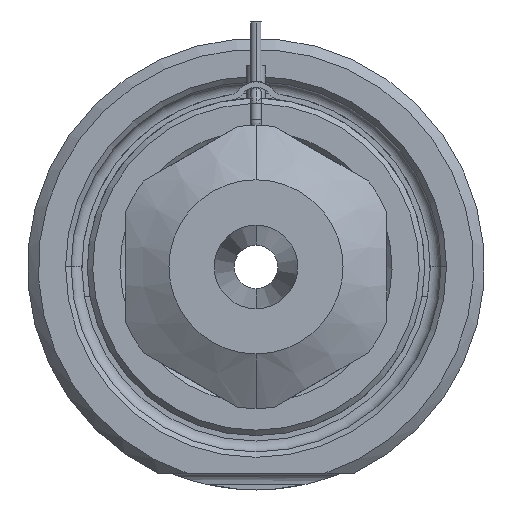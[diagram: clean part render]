
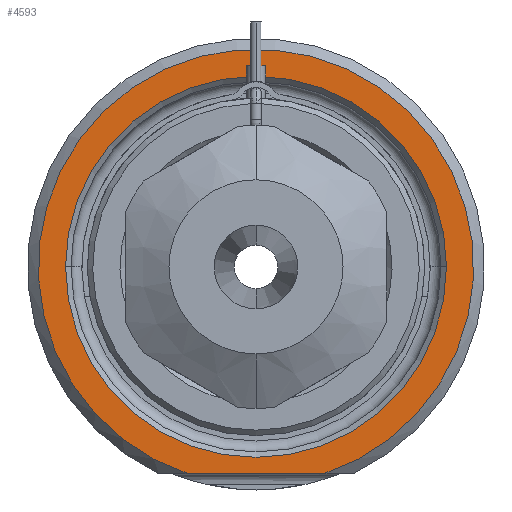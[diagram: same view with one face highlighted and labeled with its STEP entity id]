
A CAD part, front view. The second image highlights one B-rep face of the part: STEP entity #4593.
In plain terms, the highlighted planar face has unit normal (0, -1, 0).
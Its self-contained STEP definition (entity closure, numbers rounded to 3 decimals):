
#1628=CARTESIAN_POINT('',(0.,0.,0.));
#1629=DIRECTION('',(0.,-1.,0.));
#1630=DIRECTION('',(0.312,0.,-0.95));
#1631=AXIS2_PLACEMENT_3D('',#1628,#1629,#1630);
#1652=DIRECTION('',(1.,0.,0.));
#1653=VECTOR('',#1652,12.49);
#1654=CARTESIAN_POINT('',(-6.245,0.,-19.));
#1655=LINE('',#1654,#1653);
#1656=CARTESIAN_POINT('',(0.,0.,0.));
#1657=DIRECTION('',(0.,1.,0.));
#1658=DIRECTION('',(-1.,0.,0.));
#1659=AXIS2_PLACEMENT_3D('',#1656,#1657,#1658);
#1661=CARTESIAN_POINT('',(0.,0.,0.));
#1662=DIRECTION('',(0.,1.,0.));
#1663=DIRECTION('',(1.,0.,0.));
#1664=AXIS2_PLACEMENT_3D('',#1661,#1662,#1663);
#2502=CARTESIAN_POINT('',(-17.5,0.,0.));
#2503=CARTESIAN_POINT('',(17.5,0.,0.));
#2504=VERTEX_POINT('',#2502);
#2505=VERTEX_POINT('',#2503);
#2560=CARTESIAN_POINT('',(-6.245,0.,-19.));
#2561=CARTESIAN_POINT('',(6.245,0.,-19.));
#2562=VERTEX_POINT('',#2560);
#2563=VERTEX_POINT('',#2561);
#4578=CARTESIAN_POINT('',(0.,0.,0.));
#4579=DIRECTION('',(0.,-1.,0.));
#4580=DIRECTION('',(1.,0.,0.));
#4581=AXIS2_PLACEMENT_3D('',#4578,#4579,#4580);
#4582=PLANE('',#4581);
#4583=ORIENTED_EDGE('',*,*,#4510,.F.);
#4584=ORIENTED_EDGE('',*,*,#4570,.F.);
#4585=EDGE_LOOP('',(#4583,#4584));
#4586=FACE_OUTER_BOUND('',#4585,.F.);
#4588=ORIENTED_EDGE('',*,*,#4587,.F.);
#4590=ORIENTED_EDGE('',*,*,#4589,.F.);
#4591=EDGE_LOOP('',(#4588,#4590));
#4592=FACE_BOUND('',#4591,.F.);
#4593=ADVANCED_FACE('',(#4586,#4592),#4582,.T.);
#1632=CIRCLE('',#1631,20.);
#1660=CIRCLE('',#1659,17.5);
#1665=CIRCLE('',#1664,17.5);
#4510=EDGE_CURVE('',#2562,#2563,#1655,.T.);
#4570=EDGE_CURVE('',#2563,#2562,#1632,.T.);
#4587=EDGE_CURVE('',#2504,#2505,#1660,.T.);
#4589=EDGE_CURVE('',#2505,#2504,#1665,.T.);
